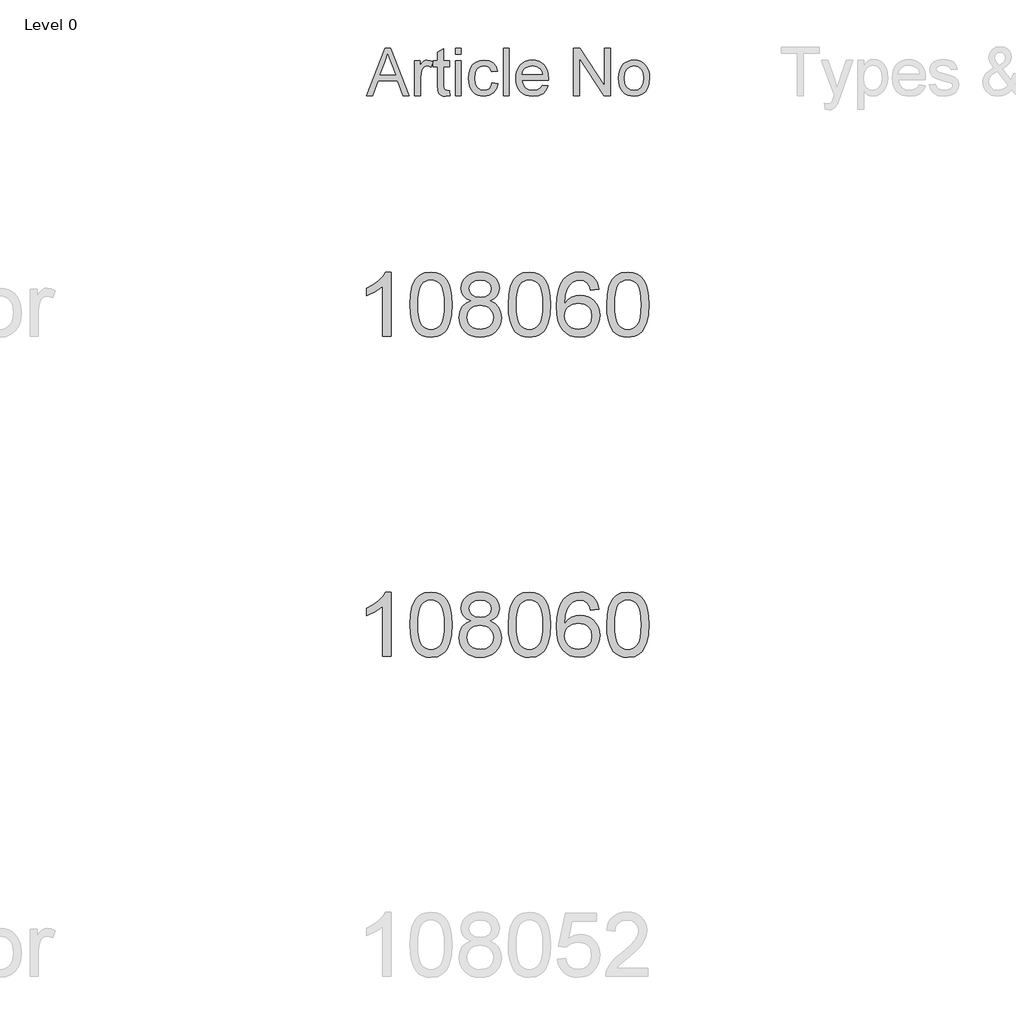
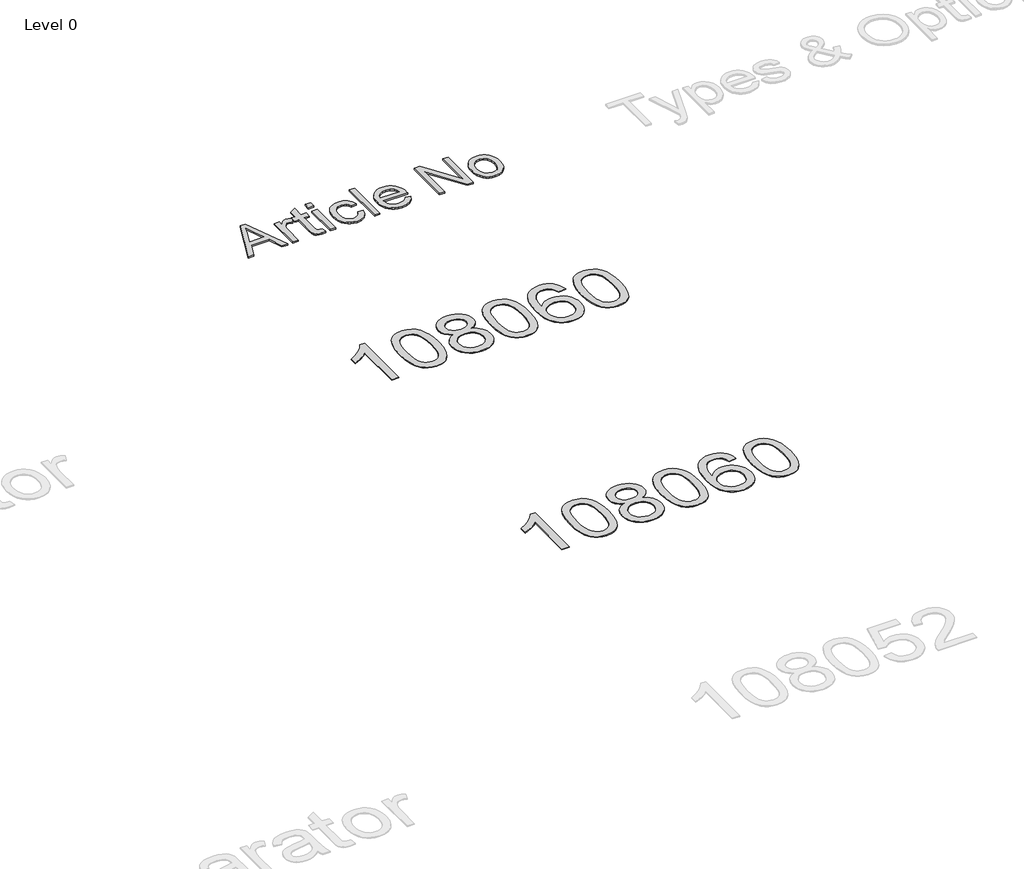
# One storey, part 7 of 15: 3 proxies.
"""IFC4 building model written with IfcOpenShell, lengths in millimetres."""

from ifc_helpers import new_model, si_unit, origin, origin_with_axes, place, context, project, spatial, polyline, outline, extrude, element, save

model = new_model("IFC4")

# Units and contexts
model_context = context("Model", 3, world=origin())
ifc_project = project(units=[si_unit("LENGTHUNIT", "METRE", prefix="MILLI")], contexts=[model_context])

# Site, building, storey
site = spatial("IfcSite", under=ifc_project)
building = spatial("IfcBuilding", under=site)
storey = spatial("IfcBuildingStorey", under=building, Name="Level 0", Elevation=0.0)

# Proxies
placement = place(None, origin())
element("IfcBuildingElementProxy", 1, Name="300mm Arial", ObjectType="300mm Arial", at=placement, inside=storey, context=model_context, shape_type="SweptSolid", body=[
    extrude(outline(polyline([(-3782.2115467, 11653.8274553), (-3664.3028928, 11949.2120707), (-3632.8605852, 11949.2120707), (-3514.9519313, 11653.8274553), (-3553.9663544, 11653.8274553), (-3587.7884698, 11746.1351476), (-3709.4471236, 11746.1351476), (-3743.1971236, 11653.8274553), (-3782.2115467, 11653.8274553)]), holes=[polyline([(-3695.8894313, 11783.0582246), (-3601.2740467, 11783.0582246), (-3627.8846236, 11855.6784169), (-3648.581739, 11912.2889938), (-3666.9711621, 11862.0245707), (-3695.8894313, 11783.0582246)])]), origin_with_axes(), (0.0, 0.0, 1.0), 10.0),
    extrude(outline(polyline([(-3480.1202005, 11653.8274553), (-3480.1202005, 11870.7505323), (-3447.8125082, 11870.7505323), (-3447.8125082, 11838.6591861), (-3435.8774121, 11857.2649553), (-3424.8798159, 11868.2264938), (-3413.8461621, 11873.5810611), (-3401.8028928, 11875.3659169), (-3383.4134698, 11872.5173592), (-3364.7355852, 11863.9716861), (-3377.0673159, 11830.8707246), (-3390.0480852, 11836.5498111), (-3403.0288544, 11838.44284), (-3414.0534938, 11836.6219265), (-3423.9062582, 11831.1591861), (-3431.8659938, 11822.4692823), (-3437.2115467, 11810.9668784), (-3441.7007294, 11790.3418784), (-3443.1971236, 11767.8418784), (-3443.1971236, 11653.8274553), (-3480.1202005, 11653.8274553)])), origin_with_axes(), (0.0, 0.0, 1.0), 10.0),
    extrude(outline(polyline([(-3263.1971236, 11684.6207246), (-3258.581739, 11652.7457246), (-3286.2019313, 11649.2120707), (-3303.9242871, 11650.7445226), (-3317.1394313, 11655.3418784), (-3326.4783736, 11662.427215), (-3332.5721236, 11671.4236092), (-3335.925489, 11686.8743303), (-3337.0432775, 11713.3226476), (-3337.0432775, 11833.8274553), (-3364.7355852, 11833.8274553), (-3364.7355852, 11870.7505323), (-3337.0432775, 11870.7505323), (-3337.0432775, 11923.4668784), (-3300.1202005, 11945.1736092), (-3300.1202005, 11870.7505323), (-3263.1971236, 11870.7505323), (-3263.1971236, 11833.8274553), (-3300.1202005, 11833.8274553), (-3300.1202005, 11714.4043784), (-3298.1730852, 11695.3659169), (-3291.862989, 11688.6231284), (-3279.2788544, 11686.1351476), (-3263.1971236, 11684.6207246)])), origin_with_axes(), (0.0, 0.0, 1.0), 10.0),
    extrude(outline(polyline([(-3226.2740467, 11912.2889938), (-3226.2740467, 11949.2120707), (-3189.3509698, 11949.2120707), (-3189.3509698, 11912.2889938), (-3226.2740467, 11912.2889938)])), origin_with_axes(), (0.0, 0.0, 1.0), 10.0),
    extrude(outline(polyline([(-3226.2740467, 11653.8274553), (-3226.2740467, 11870.7505323), (-3189.3509698, 11870.7505323), (-3189.3509698, 11653.8274553), (-3226.2740467, 11653.8274553)])), origin_with_axes(), (0.0, 0.0, 1.0), 10.0),
    extrude(outline(polyline([(-2995.5048159, 11732.2889938), (-2958.581739, 11727.6736092), (-2968.8762102, 11694.8340659), (-2988.2211621, 11670.0173592), (-3014.7956813, 11654.4133928), (-3046.7788544, 11649.2120707), (-3067.4872378, 11651.0262234), (-3086.0546957, 11656.4686813), (-3102.4812282, 11665.5394445), (-3116.7668352, 11678.238513), (-3128.3300864, 11694.3270046), (-3136.5895515, 11713.5660371), (-3141.5452306, 11735.9556104), (-3143.1971236, 11761.4957246), (-3140.3756092, 11794.3532967), (-3131.9110659, 11822.8298592), (-3117.6682775, 11845.8256525), (-3097.5120275, 11862.2409169), (-3073.3984457, 11872.0846669), (-3047.2836621, 11875.3659169), (-3016.0847438, 11870.8587053), (-2991.1418352, 11857.3370707), (-2973.2482053, 11835.5221669), (-2963.1971236, 11806.1351476), (-3000.1202005, 11801.519763), (-3006.8179169, 11817.6285371), (-3017.2476044, 11829.176013), (-3030.83234, 11836.1261332), (-3046.9952005, 11838.44284), (-3070.8563784, 11833.8815419), (-3089.7956813, 11820.1976476), (-3102.1544553, 11796.6519746), (-3106.2740467, 11762.50534), (-3102.2445996, 11727.8989698), (-3090.1562582, 11704.2721669), (-3071.5595034, 11690.6694025), (-3048.0048159, 11686.1351476), (-3028.8852246, 11688.9656765), (-3013.2091428, 11697.457263), (-3001.8058977, 11711.8262534), (-2995.5048159, 11732.2889938)])), origin_with_axes(), (0.0, 0.0, 1.0), 10.0),
    extrude(outline(polyline([(-2926.2740467, 11653.8274553), (-2926.2740467, 11949.2120707), (-2889.3509698, 11949.2120707), (-2889.3509698, 11653.8274553), (-2926.2740467, 11653.8274553)])), origin_with_axes(), (0.0, 0.0, 1.0), 10.0),
    extrude(outline(polyline([(-2682.0913544, 11718.44284), (-2645.8894313, 11713.8274553), (-2658.9333015, 11686.5498111), (-2679.7476044, 11666.1591861), (-2707.86359, 11653.4488496), (-2742.8125082, 11649.2120707), (-2765.7226645, 11651.039745), (-2786.1358255, 11656.5227678), (-2804.0519914, 11665.6611392), (-2819.4711621, 11678.4548592), (-2831.870501, 11694.547858), (-2840.7271717, 11713.5840659), (-2846.0411741, 11735.563483), (-2847.8125082, 11760.4861092), (-2846.0231453, 11786.2538375), (-2840.6550563, 11808.9656765), (-2831.7082414, 11828.621626), (-2819.1827005, 11845.2216861), (-2803.8040948, 11858.4097871), (-2786.2980852, 11867.8298592), (-2766.6646717, 11873.4819025), (-2744.9038544, 11875.3659169), (-2723.8439085, 11873.4864097), (-2704.7986861, 11867.847888), (-2687.7681873, 11858.450352), (-2672.7524121, 11845.2938015), (-2660.4950503, 11828.7297991), (-2651.7397919, 11809.1099073), (-2646.4866368, 11786.434126), (-2644.7355852, 11760.7024553), (-2644.9519313, 11750.7505323), (-2810.8894313, 11750.7505323), (-2804.4982053, 11723.1123111), (-2789.6514505, 11702.7938015), (-2768.2241669, 11690.2998111), (-2742.0913544, 11686.1351476), (-2722.4399121, 11688.0642342), (-2705.8894313, 11693.8514938), (-2692.4399121, 11703.8575034), (-2682.0913544, 11718.44284)]), holes=[polyline([(-2810.8894313, 11787.6736092), (-2681.6586621, 11787.6736092), (-2686.6526525, 11807.1808207), (-2696.4423159, 11821.1351476), (-2717.9687582, 11834.1159169), (-2745.0480852, 11838.44284), (-2769.9369073, 11834.9903159), (-2790.5168352, 11824.6327438), (-2804.8227246, 11808.4879121), (-2810.8894313, 11787.6736092)])]), origin_with_axes(), (0.0, 0.0, 1.0), 10.0),
    extrude(outline(polyline([(-2487.8125082, 11653.8274553), (-2487.8125082, 11949.2120707), (-2448.2932775, 11949.2120707), (-2293.9663544, 11715.1976476), (-2293.9663544, 11949.2120707), (-2257.0432775, 11949.2120707), (-2257.0432775, 11653.8274553), (-2296.5625082, 11653.8274553), (-2450.8894313, 11887.9139938), (-2450.8894313, 11653.8274553), (-2487.8125082, 11653.8274553)])), origin_with_axes(), (0.0, 0.0, 1.0), 10.0),
    extrude(outline(polyline([(-2206.2740467, 11762.2889938), (-2204.277352, 11790.3824433), (-2198.2872678, 11814.5906765), (-2188.3037943, 11834.9136933), (-2174.3269313, 11851.3514938), (-2160.2554169, 11861.8578039), (-2144.7235659, 11869.3623111), (-2127.7313784, 11873.8650154), (-2109.2788544, 11875.3659169), (-2088.9085118, 11873.5382426), (-2070.4897919, 11868.0552198), (-2054.0226945, 11858.9168484), (-2039.5072198, 11846.1231284), (-2027.6600142, 11830.1067522), (-2019.1977246, 11811.3004121), (-2014.1203508, 11789.704108), (-2012.4278928, 11765.31784), (-2015.4206813, 11728.0161573), (-2024.3990467, 11699.6207246), (-2039.1015707, 11678.3557005), (-2059.2668352, 11662.4452438), (-2083.2181573, 11652.520364), (-2109.2788544, 11649.2120707), (-2129.9466729, 11651.0329842), (-2148.5366669, 11656.4957246), (-2165.0488364, 11665.6002919), (-2179.4831813, 11678.3466861), (-2191.2041849, 11694.5185611), (-2199.5763303, 11713.8995707), (-2204.5996176, 11736.489715), (-2206.2740467, 11762.2889938)]), holes=[polyline([(-2169.3509698, 11762.3611092), (-2165.0781332, 11728.9446428), (-2152.2596236, 11705.1375515), (-2132.9687582, 11690.8857486), (-2109.2788544, 11686.1351476), (-2085.6971236, 11690.9127919), (-2066.4423159, 11705.2457246), (-2053.6238063, 11729.3683207), (-2049.3509698, 11763.5149553), (-2053.6508496, 11795.957864), (-2066.550489, 11819.4404361), (-2085.83234, 11833.692239), (-2109.2788544, 11838.44284), (-2132.9687582, 11833.7102678), (-2152.2596236, 11819.5125515), (-2165.0781332, 11795.7595467), (-2169.3509698, 11762.3611092)])]), origin_with_axes(), (0.0, 0.0, 1.0), 10.0),
])
element("IfcBuildingElementProxy", 2, Name="400mm Arial", ObjectType="400mm Arial", at=placement, inside=storey, context=model_context, shape_type="SweptSolid", body=[
    extrude(outline(polyline([(-3629.592891, 10149.0232018), (-3679.821046, 10149.0232018), (-3679.821046, 10462.1643561), (-3700.7903198, 10445.2049961), (-3727.4004508, 10428.2701616), (-3780.2773562, 10402.9108294), (-3780.2773562, 10450.3921323), (-3740.8281436, 10471.8519153), (-3706.6519062, 10497.3829258), (-3679.7106814, 10524.532617), (-3661.9665065, 10550.8484424), (-3629.592891, 10550.8484424), (-3629.592891, 10149.0232018)])), origin_with_axes(), (0.0, 0.0, 1.0), 5.0),
    extrude(outline(polyline([(-3510.3010227, 10346.6984606), (-3506.60994, 10411.0164961), (-3495.5366919, 10462.3115089), (-3477.1916431, 10501.3683141), (-3465.3335801, 10516.6016944), (-3451.6851581, 10528.9717264), (-3436.2003918, 10538.5427897), (-3418.8332959, 10545.3792634), (-3378.4521156, 10550.8484424), (-3347.5009771, 10547.6110809), (-3319.7872001, 10537.8989962), (-3296.6106344, 10522.0923331), (-3279.2711297, 10500.5712364), (-3266.1745307, 10473.519647), (-3255.726682, 10441.121506), (-3248.8840769, 10399.9800362), (-3246.6032085, 10346.6984606), (-3250.257503, 10282.7483071), (-3261.2203865, 10231.5759215), (-3279.4550707, 10192.4823282), (-3291.2855425, 10177.2029627), (-3304.9247675, 10164.7685512), (-3320.4279279, 10155.1331086), (-3337.8502061, 10148.2506496), (-3378.4521156, 10142.7446824), (-3406.1168416, 10145.1359154), (-3430.642308, 10152.3096143), (-3452.0285146, 10164.2657792), (-3470.2754616, 10181.0044099), (-3487.7866446, 10211.262704), (-3500.2946324, 10248.9644772), (-3507.7994251, 10294.1097294), (-3510.3010227, 10346.6984606)]), holes=[polyline([(-3460.0728676, 10346.7965624), (-3458.6013396, 10303.1320353), (-3454.1867557, 10267.7877726), (-3446.8291158, 10240.7637744), (-3436.5284199, 10222.0600406), (-3424.069483, 10209.3343892), (-3410.23712, 10200.2446383), (-3395.0313308, 10194.7907877), (-3378.4521156, 10192.9728375), (-3361.8729003, 10194.7969191), (-3346.6671112, 10200.2691637), (-3332.8347482, 10209.3895715), (-3320.3758113, 10222.1581425), (-3310.0751154, 10240.8925331), (-3302.7174755, 10267.9103999), (-3298.3028916, 10303.2117431), (-3296.8313636, 10346.7965624), (-3298.2538406, 10389.305327), (-3302.5212718, 10424.0272559), (-3309.633657, 10450.9623494), (-3319.5909964, 10470.1106072), (-3331.8414668, 10483.4585923), (-3345.8332454, 10492.9928673), (-3361.566332, 10498.7134323), (-3379.0407268, 10500.6202873), (-3395.5341029, 10498.9402929), (-3410.4823746, 10493.9003096), (-3423.885542, 10485.5003373), (-3435.743605, 10473.7403762), (-3446.3876574, 10452.8937298), (-3453.9905519, 10424.7875454), (-3458.5522887, 10389.4218229), (-3460.0728676, 10346.7965624)])]), origin_with_axes(), (0.0, 0.0, 1.0), 5.0),
    extrude(outline(polyline([(-3129.4695813, 10370.3410101), (-3156.3617551, 10383.5847619), (-3175.2341015, 10401.5374033), (-3186.3809259, 10423.8310522), (-3190.0965341, 10450.0978267), (-3188.0731831, 10470.5827224), (-3182.0031302, 10489.3630983), (-3171.8863753, 10506.4389542), (-3157.7229185, 10521.8102903), (-3140.1933414, 10534.5144818), (-3119.9782258, 10543.5889044), (-3097.0775716, 10549.0335579), (-3071.4913788, 10550.8484424), (-3045.7825587, 10548.9906383), (-3022.7102263, 10543.4172261), (-3002.2743814, 10534.1282057), (-2984.4750242, 10521.1235772), (-2970.05405, 10505.4518042), (-2959.7533542, 10488.1613504), (-2953.5729366, 10469.2522159), (-2951.5127975, 10448.7244006), (-2955.1793547, 10423.3037547), (-2966.1790263, 10401.3902505), (-2984.6344398, 10383.5479737), (-3010.6682223, 10370.3410101), (-2979.753872, 10354.4117197), (-2957.2517566, 10330.9531112), (-2943.5297582, 10301.0933559), (-2938.9557587, 10265.9606254), (-2941.2243643, 10240.9078615), (-2948.0301812, 10217.9397623), (-2959.3732094, 10197.0563277), (-2975.2534489, 10178.2575577), (-2994.8370338, 10162.7206748), (-3017.2900982, 10151.6229013), (-3042.6126422, 10144.9642371), (-3070.8046658, 10142.7446824), (-3098.9966893, 10144.9734342), (-3124.3192333, 10151.6596895), (-3146.7722978, 10162.8034482), (-3166.3558826, 10178.4047105), (-3182.2361221, 10197.3353048), (-3193.5791503, 10218.4670598), (-3200.3849672, 10241.7999753), (-3202.6535728, 10267.3340515), (-3197.8956324, 10303.8279454), (-3183.621811, 10333.8471162), (-3160.5678726, 10356.3614943), (-3129.4695813, 10370.3410101)]), holes=[polyline([(-3139.868379, 10448.6262987), (-3135.4170068, 10426.7005318), (-3122.0628904, 10409.1893488), (-3100.1984372, 10397.7114306), (-3070.2160546, 10393.8854578), (-3040.9326478, 10397.6869051), (-3019.3992883, 10409.0912469), (-3006.1555365, 10426.0138187), (-3001.7409525, 10446.3699558), (-3006.3026893, 10467.498645), (-3019.9878995, 10484.9730398), (-3041.8155645, 10496.7084755), (-3070.8046658, 10500.6202873), (-3099.977708, 10496.7943146), (-3121.7685848, 10485.3163963), (-3135.3434305, 10468.4919264), (-3139.868379, 10448.6262987)]), polyline([(-3152.4254178, 10269.099885), (-3150.3284904, 10249.8841822), (-3144.0377083, 10231.2816159), (-3132.4249, 10215.05802), (-3114.361894, 10202.9792278), (-3092.7304327, 10195.4744351), (-3070.4122583, 10192.9728375), (-3036.2237582, 10198.23355), (-3022.3300815, 10204.8094407), (-3010.5701204, 10214.0156876), (-2994.5304654, 10237.9157546), (-2989.1839138, 10267.5302552), (-2994.7021437, 10297.6475279), (-3011.2568335, 10322.0748924), (-3023.3356257, 10331.5171969), (-3037.4990825, 10338.2617001), (-3072.07999, 10343.6573027), (-3105.7902435, 10338.3352765), (-3119.5275703, 10331.6827438), (-3131.1863639, 10322.3691979), (-3147.1156543, 10298.4078173), (-3152.4254178, 10269.099885)])]), origin_with_axes(), (0.0, 0.0, 1.0), 5.0),
    extrude(outline(polyline([(-2895.006123, 10346.6984606), (-2891.3150403, 10411.0164961), (-2880.2417923, 10462.3115089), (-2861.8967434, 10501.3683141), (-2850.0386805, 10516.6016944), (-2836.3902584, 10528.9717264), (-2820.9054921, 10538.5427897), (-2803.5383963, 10545.3792634), (-2763.1572159, 10550.8484424), (-2732.2060774, 10547.6110809), (-2704.4923004, 10537.8989962), (-2681.3157347, 10522.0923331), (-2663.97623, 10500.5712364), (-2650.879631, 10473.519647), (-2640.4317823, 10441.121506), (-2633.5891772, 10399.9800362), (-2631.3083089, 10346.6984606), (-2634.9626033, 10282.7483071), (-2645.9254868, 10231.5759215), (-2664.160171, 10192.4823282), (-2675.9906429, 10177.2029627), (-2689.6298678, 10164.7685512), (-2705.1330282, 10155.1331086), (-2722.5553064, 10148.2506496), (-2763.1572159, 10142.7446824), (-2790.821942, 10145.1359154), (-2815.3474083, 10152.3096143), (-2836.733615, 10164.2657792), (-2854.9805619, 10181.0044099), (-2872.4917449, 10211.262704), (-2884.9997327, 10248.9644772), (-2892.5045254, 10294.1097294), (-2895.006123, 10346.6984606)]), holes=[polyline([(-2844.7779679, 10346.7965624), (-2843.3064399, 10303.1320353), (-2838.891856, 10267.7877726), (-2831.5342161, 10240.7637744), (-2821.2335202, 10222.0600406), (-2808.7745833, 10209.3343892), (-2794.9422203, 10200.2446383), (-2779.7364312, 10194.7907877), (-2763.1572159, 10192.9728375), (-2746.5780007, 10194.7969191), (-2731.3722115, 10200.2691637), (-2717.5398485, 10209.3895715), (-2705.0809116, 10222.1581425), (-2694.7802158, 10240.8925331), (-2687.4225759, 10267.9103999), (-2683.0079919, 10303.2117431), (-2681.5364639, 10346.7965624), (-2682.958941, 10389.305327), (-2687.2263721, 10424.0272559), (-2694.3387574, 10450.9623494), (-2704.2960967, 10470.1106072), (-2716.5465671, 10483.4585923), (-2730.5383457, 10492.9928673), (-2746.2714324, 10498.7134323), (-2763.7458271, 10500.6202873), (-2780.2392032, 10498.9402929), (-2795.187475, 10493.9003096), (-2808.5906423, 10485.5003373), (-2820.4487053, 10473.7403762), (-2831.0927577, 10452.8937298), (-2838.6956523, 10424.7875454), (-2843.257389, 10389.4218229), (-2844.7779679, 10346.7965624)])]), origin_with_axes(), (0.0, 0.0, 1.0), 5.0),
    extrude(outline(polyline([(-2329.9393784, 10444.1136129), (-2380.1675335, 10437.8350935), (-2388.2609374, 10462.7284418), (-2399.1992954, 10479.72459), (-2421.9834536, 10495.396363), (-2449.5255523, 10500.6202873), (-2472.8737963, 10497.5791295), (-2494.8486141, 10488.455656), (-2513.7209605, 10469.2399532), (-2529.1352161, 10442.7892377), (-2539.5462765, 10405.3756388), (-2543.4090375, 10353.2712855), (-2523.2613669, 10376.778945), (-2499.1160453, 10393.3458976), (-2472.3219733, 10403.1683468), (-2444.2280516, 10406.4424966), (-2420.0949927, 10404.2045478), (-2397.8258693, 10397.4907014), (-2377.4206813, 10386.3009573), (-2358.8794287, 10370.6353157), (-2343.4713045, 10351.4257442), (-2332.4655014, 10329.6042105), (-2325.8620196, 10305.1707147), (-2323.660859, 10278.1252567), (-2327.8056628, 10242.1586603), (-2340.2400743, 10208.8162888), (-2359.9340238, 10180.5384261), (-2385.8574417, 10159.7653561), (-2416.8331057, 10146.9998508), (-2451.6837933, 10142.7446824), (-2481.6263221, 10145.5651111), (-2508.6687144, 10154.026397), (-2532.8109703, 10168.1285401), (-2554.0530899, 10187.8715405), (-2571.3711348, 10214.089264), (-2583.7411669, 10247.6155765), (-2591.1631861, 10288.450478), (-2593.6371926, 10336.5939684), (-2590.8903403, 10390.5683885), (-2582.6497836, 10436.6333457), (-2568.9155225, 10474.7888399), (-2549.6875569, 10505.0348713), (-2528.8470418, 10525.0783087), (-2504.6833261, 10539.3950496), (-2477.1964097, 10547.9850942), (-2446.3862926, 10550.8484424), (-2423.2526465, 10549.0764775), (-2402.3140296, 10543.7605826), (-2383.5704419, 10534.9007579), (-2367.0218835, 10522.4970033), (-2353.1159441, 10506.9662518), (-2342.3002134, 10488.7254362), (-2334.5746915, 10467.7745565), (-2329.9393784, 10444.1136129)]), holes=[polyline([(-2543.4090375, 10278.9100716), (-2540.5027697, 10256.6532109), (-2531.7839664, 10235.4018943), (-2518.245909, 10217.1304219), (-2500.8818788, 10203.8130936), (-2479.9248678, 10195.6829015), (-2455.607868, 10192.9728375), (-2422.4617002, 10198.5891693), (-2408.5465637, 10205.609584), (-2396.4033922, 10215.4381647), (-2386.5533518, 10227.6763724), (-2379.5176086, 10241.9256683), (-2373.8890141, 10276.457525), (-2379.4440322, 10309.6036927), (-2386.3878049, 10323.2245236), (-2396.1090866, 10334.8771858), (-2408.2890463, 10344.2121914), (-2422.608853, 10350.8800526), (-2457.6680071, 10356.2143415), (-2490.765124, 10350.8800526), (-2518.4421127, 10334.8771858), (-2529.3651423, 10323.3778078), (-2537.1673063, 10310.2168294), (-2541.8486047, 10295.3942507), (-2543.4090375, 10278.9100716)])]), origin_with_axes(), (0.0, 0.0, 1.0), 5.0),
    extrude(outline(polyline([(-2279.7112233, 10346.6984606), (-2276.0201407, 10411.0164961), (-2264.9468926, 10462.3115089), (-2246.6018438, 10501.3683141), (-2234.7437808, 10516.6016944), (-2221.0953588, 10528.9717264), (-2205.6105925, 10538.5427897), (-2188.2434966, 10545.3792634), (-2147.8623163, 10550.8484424), (-2116.9111777, 10547.6110809), (-2089.1974008, 10537.8989962), (-2066.0208351, 10522.0923331), (-2048.6813304, 10500.5712364), (-2035.5847313, 10473.519647), (-2025.1368827, 10441.121506), (-2018.2942776, 10399.9800362), (-2016.0134092, 10346.6984606), (-2019.6677037, 10282.7483071), (-2030.6305871, 10231.5759215), (-2048.8652714, 10192.4823282), (-2060.6957432, 10177.2029627), (-2074.3349682, 10164.7685512), (-2089.8381286, 10155.1331086), (-2107.2604067, 10148.2506496), (-2147.8623163, 10142.7446824), (-2175.5270423, 10145.1359154), (-2200.0525086, 10152.3096143), (-2221.4387153, 10164.2657792), (-2239.6856623, 10181.0044099), (-2257.1968452, 10211.262704), (-2269.7048331, 10248.9644772), (-2277.2096258, 10294.1097294), (-2279.7112233, 10346.6984606)]), holes=[polyline([(-2229.4830683, 10346.7965624), (-2228.0115403, 10303.1320353), (-2223.5969563, 10267.7877726), (-2216.2393164, 10240.7637744), (-2205.9386206, 10222.0600406), (-2193.4796837, 10209.3343892), (-2179.6473206, 10200.2446383), (-2164.4415315, 10194.7907877), (-2147.8623163, 10192.9728375), (-2131.283101, 10194.7969191), (-2116.0773119, 10200.2691637), (-2102.2449489, 10209.3895715), (-2089.786012, 10222.1581425), (-2079.4853161, 10240.8925331), (-2072.1276762, 10267.9103999), (-2067.7130922, 10303.2117431), (-2066.2415643, 10346.7965624), (-2067.6640413, 10389.305327), (-2071.9314725, 10424.0272559), (-2079.0438577, 10450.9623494), (-2089.001197, 10470.1106072), (-2101.2516675, 10483.4585923), (-2115.243446, 10492.9928673), (-2130.9765327, 10498.7134323), (-2148.4509275, 10500.6202873), (-2164.9443036, 10498.9402929), (-2179.8925753, 10493.9003096), (-2193.2957427, 10485.5003373), (-2205.1538056, 10473.7403762), (-2215.797858, 10452.8937298), (-2223.4007526, 10424.7875454), (-2227.9624893, 10389.4218229), (-2229.4830683, 10346.7965624)])]), origin_with_axes(), (0.0, 0.0, 1.0), 5.0),
])
element("IfcBuildingElementProxy", 3, Name="400mm Arial", ObjectType="400mm Arial", at=placement, inside=storey, context=model_context, shape_type="SweptSolid", body=[
    extrude(outline(polyline([(-3629.592891, 8149.0232018), (-3679.821046, 8149.0232018), (-3679.821046, 8462.1643561), (-3700.7903198, 8445.2049961), (-3727.4004508, 8428.2701616), (-3780.2773562, 8402.9108294), (-3780.2773562, 8450.3921323), (-3740.8281436, 8471.8519153), (-3706.6519062, 8497.3829258), (-3679.7106814, 8524.532617), (-3661.9665065, 8550.8484424), (-3629.592891, 8550.8484424), (-3629.592891, 8149.0232018)])), origin_with_axes(), (0.0, 0.0, 1.0), 5.0),
    extrude(outline(polyline([(-3510.3010227, 8346.6984606), (-3506.60994, 8411.0164961), (-3495.5366919, 8462.3115089), (-3477.1916431, 8501.3683141), (-3465.3335801, 8516.6016944), (-3451.6851581, 8528.9717264), (-3436.2003918, 8538.5427897), (-3418.8332959, 8545.3792634), (-3378.4521156, 8550.8484424), (-3347.5009771, 8547.6110809), (-3319.7872001, 8537.8989962), (-3296.6106344, 8522.0923331), (-3279.2711297, 8500.5712364), (-3266.1745307, 8473.519647), (-3255.726682, 8441.121506), (-3248.8840769, 8399.9800362), (-3246.6032085, 8346.6984606), (-3250.257503, 8282.7483071), (-3261.2203865, 8231.5759215), (-3279.4550707, 8192.4823282), (-3291.2855425, 8177.2029627), (-3304.9247675, 8164.7685512), (-3320.4279279, 8155.1331086), (-3337.8502061, 8148.2506496), (-3378.4521156, 8142.7446824), (-3406.1168416, 8145.1359154), (-3430.642308, 8152.3096143), (-3452.0285146, 8164.2657792), (-3470.2754616, 8181.0044099), (-3487.7866446, 8211.262704), (-3500.2946324, 8248.9644772), (-3507.7994251, 8294.1097294), (-3510.3010227, 8346.6984606)]), holes=[polyline([(-3460.0728676, 8346.7965624), (-3458.6013396, 8303.1320353), (-3454.1867557, 8267.7877726), (-3446.8291158, 8240.7637744), (-3436.5284199, 8222.0600406), (-3424.069483, 8209.3343892), (-3410.23712, 8200.2446383), (-3395.0313308, 8194.7907877), (-3378.4521156, 8192.9728375), (-3361.8729003, 8194.7969191), (-3346.6671112, 8200.2691637), (-3332.8347482, 8209.3895715), (-3320.3758113, 8222.1581425), (-3310.0751154, 8240.8925331), (-3302.7174755, 8267.9103999), (-3298.3028916, 8303.2117431), (-3296.8313636, 8346.7965624), (-3298.2538406, 8389.305327), (-3302.5212718, 8424.0272559), (-3309.633657, 8450.9623494), (-3319.5909964, 8470.1106072), (-3331.8414668, 8483.4585923), (-3345.8332454, 8492.9928673), (-3361.566332, 8498.7134323), (-3379.0407268, 8500.6202873), (-3395.5341029, 8498.9402929), (-3410.4823746, 8493.9003096), (-3423.885542, 8485.5003373), (-3435.743605, 8473.7403762), (-3446.3876574, 8452.8937298), (-3453.9905519, 8424.7875454), (-3458.5522887, 8389.4218229), (-3460.0728676, 8346.7965624)])]), origin_with_axes(), (0.0, 0.0, 1.0), 5.0),
    extrude(outline(polyline([(-3129.4695813, 8370.3410101), (-3156.3617551, 8383.5847619), (-3175.2341015, 8401.5374033), (-3186.3809259, 8423.8310522), (-3190.0965341, 8450.0978267), (-3188.0731831, 8470.5827224), (-3182.0031302, 8489.3630983), (-3171.8863753, 8506.4389542), (-3157.7229185, 8521.8102903), (-3140.1933414, 8534.5144818), (-3119.9782258, 8543.5889044), (-3097.0775716, 8549.0335579), (-3071.4913788, 8550.8484424), (-3045.7825587, 8548.9906383), (-3022.7102263, 8543.4172261), (-3002.2743814, 8534.1282057), (-2984.4750242, 8521.1235772), (-2970.05405, 8505.4518042), (-2959.7533542, 8488.1613504), (-2953.5729366, 8469.2522159), (-2951.5127975, 8448.7244006), (-2955.1793547, 8423.3037547), (-2966.1790263, 8401.3902505), (-2984.6344398, 8383.5479737), (-3010.6682223, 8370.3410101), (-2979.753872, 8354.4117197), (-2957.2517566, 8330.9531112), (-2943.5297582, 8301.0933559), (-2938.9557587, 8265.9606254), (-2941.2243643, 8240.9078615), (-2948.0301812, 8217.9397623), (-2959.3732094, 8197.0563277), (-2975.2534489, 8178.2575577), (-2994.8370338, 8162.7206748), (-3017.2900982, 8151.6229013), (-3042.6126422, 8144.9642371), (-3070.8046658, 8142.7446824), (-3098.9966893, 8144.9734342), (-3124.3192333, 8151.6596895), (-3146.7722978, 8162.8034482), (-3166.3558826, 8178.4047105), (-3182.2361221, 8197.3353048), (-3193.5791503, 8218.4670598), (-3200.3849672, 8241.7999753), (-3202.6535728, 8267.3340515), (-3197.8956324, 8303.8279454), (-3183.621811, 8333.8471162), (-3160.5678726, 8356.3614943), (-3129.4695813, 8370.3410101)]), holes=[polyline([(-3139.868379, 8448.6262987), (-3135.4170068, 8426.7005318), (-3122.0628904, 8409.1893488), (-3100.1984372, 8397.7114306), (-3070.2160546, 8393.8854578), (-3040.9326478, 8397.6869051), (-3019.3992883, 8409.0912469), (-3006.1555365, 8426.0138187), (-3001.7409525, 8446.3699558), (-3006.3026893, 8467.498645), (-3019.9878995, 8484.9730398), (-3041.8155645, 8496.7084755), (-3070.8046658, 8500.6202873), (-3099.977708, 8496.7943146), (-3121.7685848, 8485.3163963), (-3135.3434305, 8468.4919264), (-3139.868379, 8448.6262987)]), polyline([(-3152.4254178, 8269.099885), (-3150.3284904, 8249.8841822), (-3144.0377083, 8231.2816159), (-3132.4249, 8215.05802), (-3114.361894, 8202.9792278), (-3092.7304327, 8195.4744351), (-3070.4122583, 8192.9728375), (-3036.2237582, 8198.23355), (-3022.3300815, 8204.8094407), (-3010.5701204, 8214.0156876), (-2994.5304654, 8237.9157546), (-2989.1839138, 8267.5302552), (-2994.7021437, 8297.6475279), (-3011.2568335, 8322.0748924), (-3023.3356257, 8331.5171969), (-3037.4990825, 8338.2617001), (-3072.07999, 8343.6573027), (-3105.7902435, 8338.3352765), (-3119.5275703, 8331.6827438), (-3131.1863639, 8322.3691979), (-3147.1156543, 8298.4078173), (-3152.4254178, 8269.099885)])]), origin_with_axes(), (0.0, 0.0, 1.0), 5.0),
    extrude(outline(polyline([(-2895.006123, 8346.6984606), (-2891.3150403, 8411.0164961), (-2880.2417923, 8462.3115089), (-2861.8967434, 8501.3683141), (-2850.0386805, 8516.6016944), (-2836.3902584, 8528.9717264), (-2820.9054921, 8538.5427897), (-2803.5383963, 8545.3792634), (-2763.1572159, 8550.8484424), (-2732.2060774, 8547.6110809), (-2704.4923004, 8537.8989962), (-2681.3157347, 8522.0923331), (-2663.97623, 8500.5712364), (-2650.879631, 8473.519647), (-2640.4317823, 8441.121506), (-2633.5891772, 8399.9800362), (-2631.3083089, 8346.6984606), (-2634.9626033, 8282.7483071), (-2645.9254868, 8231.5759215), (-2664.160171, 8192.4823282), (-2675.9906429, 8177.2029627), (-2689.6298678, 8164.7685512), (-2705.1330282, 8155.1331086), (-2722.5553064, 8148.2506496), (-2763.1572159, 8142.7446824), (-2790.821942, 8145.1359154), (-2815.3474083, 8152.3096143), (-2836.733615, 8164.2657792), (-2854.9805619, 8181.0044099), (-2872.4917449, 8211.262704), (-2884.9997327, 8248.9644772), (-2892.5045254, 8294.1097294), (-2895.006123, 8346.6984606)]), holes=[polyline([(-2844.7779679, 8346.7965624), (-2843.3064399, 8303.1320353), (-2838.891856, 8267.7877726), (-2831.5342161, 8240.7637744), (-2821.2335202, 8222.0600406), (-2808.7745833, 8209.3343892), (-2794.9422203, 8200.2446383), (-2779.7364312, 8194.7907877), (-2763.1572159, 8192.9728375), (-2746.5780007, 8194.7969191), (-2731.3722115, 8200.2691637), (-2717.5398485, 8209.3895715), (-2705.0809116, 8222.1581425), (-2694.7802158, 8240.8925331), (-2687.4225759, 8267.9103999), (-2683.0079919, 8303.2117431), (-2681.5364639, 8346.7965624), (-2682.958941, 8389.305327), (-2687.2263721, 8424.0272559), (-2694.3387574, 8450.9623494), (-2704.2960967, 8470.1106072), (-2716.5465671, 8483.4585923), (-2730.5383457, 8492.9928673), (-2746.2714324, 8498.7134323), (-2763.7458271, 8500.6202873), (-2780.2392032, 8498.9402929), (-2795.187475, 8493.9003096), (-2808.5906423, 8485.5003373), (-2820.4487053, 8473.7403762), (-2831.0927577, 8452.8937298), (-2838.6956523, 8424.7875454), (-2843.257389, 8389.4218229), (-2844.7779679, 8346.7965624)])]), origin_with_axes(), (0.0, 0.0, 1.0), 5.0),
    extrude(outline(polyline([(-2329.9393784, 8444.1136129), (-2380.1675335, 8437.8350935), (-2388.2609374, 8462.7284418), (-2399.1992954, 8479.72459), (-2421.9834536, 8495.396363), (-2449.5255523, 8500.6202873), (-2472.8737963, 8497.5791295), (-2494.8486141, 8488.455656), (-2513.7209605, 8469.2399532), (-2529.1352161, 8442.7892377), (-2539.5462765, 8405.3756388), (-2543.4090375, 8353.2712855), (-2523.2613669, 8376.778945), (-2499.1160453, 8393.3458976), (-2472.3219733, 8403.1683468), (-2444.2280516, 8406.4424966), (-2420.0949927, 8404.2045478), (-2397.8258693, 8397.4907014), (-2377.4206813, 8386.3009573), (-2358.8794287, 8370.6353157), (-2343.4713045, 8351.4257442), (-2332.4655014, 8329.6042105), (-2325.8620196, 8305.1707147), (-2323.660859, 8278.1252567), (-2327.8056628, 8242.1586603), (-2340.2400743, 8208.8162888), (-2359.9340238, 8180.5384261), (-2385.8574417, 8159.7653561), (-2416.8331057, 8146.9998508), (-2451.6837933, 8142.7446824), (-2481.6263221, 8145.5651111), (-2508.6687144, 8154.026397), (-2532.8109703, 8168.1285401), (-2554.0530899, 8187.8715405), (-2571.3711348, 8214.089264), (-2583.7411669, 8247.6155765), (-2591.1631861, 8288.450478), (-2593.6371926, 8336.5939684), (-2590.8903403, 8390.5683885), (-2582.6497836, 8436.6333457), (-2568.9155225, 8474.7888399), (-2549.6875569, 8505.0348713), (-2528.8470418, 8525.0783087), (-2504.6833261, 8539.3950496), (-2477.1964097, 8547.9850942), (-2446.3862926, 8550.8484424), (-2423.2526465, 8549.0764775), (-2402.3140296, 8543.7605826), (-2383.5704419, 8534.9007579), (-2367.0218835, 8522.4970033), (-2353.1159441, 8506.9662518), (-2342.3002134, 8488.7254362), (-2334.5746915, 8467.7745565), (-2329.9393784, 8444.1136129)]), holes=[polyline([(-2543.4090375, 8278.9100716), (-2540.5027697, 8256.6532109), (-2531.7839664, 8235.4018943), (-2518.245909, 8217.1304219), (-2500.8818788, 8203.8130936), (-2479.9248678, 8195.6829015), (-2455.607868, 8192.9728375), (-2422.4617002, 8198.5891693), (-2408.5465637, 8205.609584), (-2396.4033922, 8215.4381647), (-2386.5533518, 8227.6763724), (-2379.5176086, 8241.9256683), (-2373.8890141, 8276.457525), (-2379.4440322, 8309.6036927), (-2386.3878049, 8323.2245236), (-2396.1090866, 8334.8771858), (-2408.2890463, 8344.2121914), (-2422.608853, 8350.8800526), (-2457.6680071, 8356.2143415), (-2490.765124, 8350.8800526), (-2518.4421127, 8334.8771858), (-2529.3651423, 8323.3778078), (-2537.1673063, 8310.2168294), (-2541.8486047, 8295.3942507), (-2543.4090375, 8278.9100716)])]), origin_with_axes(), (0.0, 0.0, 1.0), 5.0),
    extrude(outline(polyline([(-2279.7112233, 8346.6984606), (-2276.0201407, 8411.0164961), (-2264.9468926, 8462.3115089), (-2246.6018438, 8501.3683141), (-2234.7437808, 8516.6016944), (-2221.0953588, 8528.9717264), (-2205.6105925, 8538.5427897), (-2188.2434966, 8545.3792634), (-2147.8623163, 8550.8484424), (-2116.9111777, 8547.6110809), (-2089.1974008, 8537.8989962), (-2066.0208351, 8522.0923331), (-2048.6813304, 8500.5712364), (-2035.5847313, 8473.519647), (-2025.1368827, 8441.121506), (-2018.2942776, 8399.9800362), (-2016.0134092, 8346.6984606), (-2019.6677037, 8282.7483071), (-2030.6305871, 8231.5759215), (-2048.8652714, 8192.4823282), (-2060.6957432, 8177.2029627), (-2074.3349682, 8164.7685512), (-2089.8381286, 8155.1331086), (-2107.2604067, 8148.2506496), (-2147.8623163, 8142.7446824), (-2175.5270423, 8145.1359154), (-2200.0525086, 8152.3096143), (-2221.4387153, 8164.2657792), (-2239.6856623, 8181.0044099), (-2257.1968452, 8211.262704), (-2269.7048331, 8248.9644772), (-2277.2096258, 8294.1097294), (-2279.7112233, 8346.6984606)]), holes=[polyline([(-2229.4830683, 8346.7965624), (-2228.0115403, 8303.1320353), (-2223.5969563, 8267.7877726), (-2216.2393164, 8240.7637744), (-2205.9386206, 8222.0600406), (-2193.4796837, 8209.3343892), (-2179.6473206, 8200.2446383), (-2164.4415315, 8194.7907877), (-2147.8623163, 8192.9728375), (-2131.283101, 8194.7969191), (-2116.0773119, 8200.2691637), (-2102.2449489, 8209.3895715), (-2089.786012, 8222.1581425), (-2079.4853161, 8240.8925331), (-2072.1276762, 8267.9103999), (-2067.7130922, 8303.2117431), (-2066.2415643, 8346.7965624), (-2067.6640413, 8389.305327), (-2071.9314725, 8424.0272559), (-2079.0438577, 8450.9623494), (-2089.001197, 8470.1106072), (-2101.2516675, 8483.4585923), (-2115.243446, 8492.9928673), (-2130.9765327, 8498.7134323), (-2148.4509275, 8500.6202873), (-2164.9443036, 8498.9402929), (-2179.8925753, 8493.9003096), (-2193.2957427, 8485.5003373), (-2205.1538056, 8473.7403762), (-2215.797858, 8452.8937298), (-2223.4007526, 8424.7875454), (-2227.9624893, 8389.4218229), (-2229.4830683, 8346.7965624)])]), origin_with_axes(), (0.0, 0.0, 1.0), 5.0),
])

save(model, "model.ifc")
